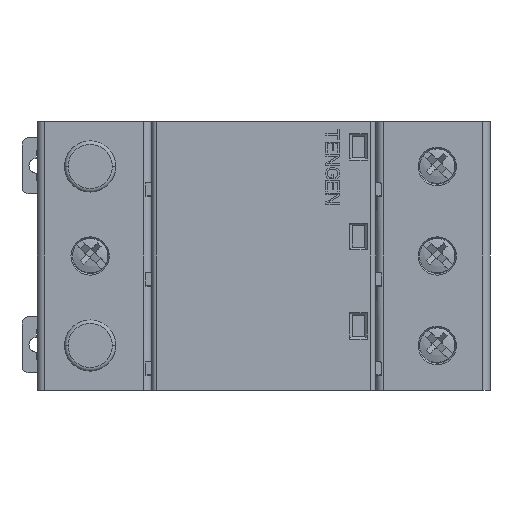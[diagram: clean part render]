
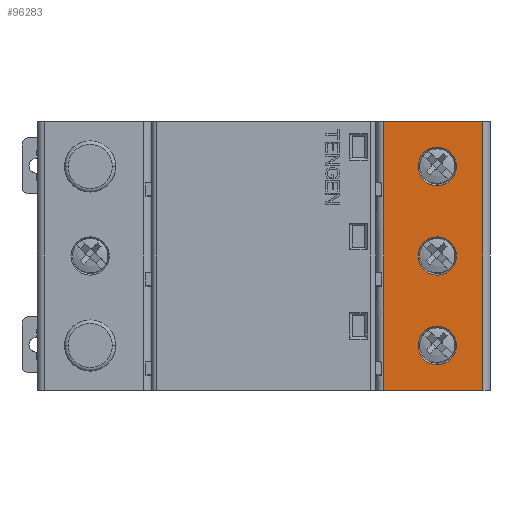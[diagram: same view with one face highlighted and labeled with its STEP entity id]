
A CAD part, front view. The second image highlights one B-rep face of the part: STEP entity #96283.
In plain terms, the highlighted planar face has unit normal (0, -1, 0).
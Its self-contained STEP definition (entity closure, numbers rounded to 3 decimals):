
#5832=DIRECTION('',(-1.,0.,0.));
#5833=VECTOR('',#5832,19.9);
#5834=CARTESIAN_POINT('',(89.5,0.,-54.));
#5835=LINE('',#5834,#5833);
#5836=DIRECTION('',(1.,0.,0.));
#5837=VECTOR('',#5836,19.9);
#5838=CARTESIAN_POINT('',(69.6,0.,0.));
#5839=LINE('',#5838,#5837);
#5840=CARTESIAN_POINT('',(80.4,0.,-45.));
#5841=DIRECTION('',(0.,-1.,0.));
#5842=DIRECTION('',(1.,0.,0.));
#5843=AXIS2_PLACEMENT_3D('',#5840,#5841,#5842);
#5845=CARTESIAN_POINT('',(80.4,0.,-45.));
#5846=DIRECTION('',(0.,-1.,0.));
#5847=DIRECTION('',(-1.,0.,0.));
#5848=AXIS2_PLACEMENT_3D('',#5845,#5846,#5847);
#5850=CARTESIAN_POINT('',(80.4,0.,-9.));
#5851=DIRECTION('',(0.,-1.,0.));
#5852=DIRECTION('',(1.,0.,0.));
#5853=AXIS2_PLACEMENT_3D('',#5850,#5851,#5852);
#5855=CARTESIAN_POINT('',(80.4,0.,-9.));
#5856=DIRECTION('',(0.,-1.,0.));
#5857=DIRECTION('',(-1.,0.,0.));
#5858=AXIS2_PLACEMENT_3D('',#5855,#5856,#5857);
#5860=CARTESIAN_POINT('',(80.4,0.,-27.));
#5861=DIRECTION('',(0.,-1.,0.));
#5862=DIRECTION('',(1.,0.,0.));
#5863=AXIS2_PLACEMENT_3D('',#5860,#5861,#5862);
#5865=CARTESIAN_POINT('',(80.4,0.,-27.));
#5866=DIRECTION('',(0.,-1.,0.));
#5867=DIRECTION('',(-1.,0.,0.));
#5868=AXIS2_PLACEMENT_3D('',#5865,#5866,#5867);
#5874=DIRECTION('',(0.,0.,1.));
#5875=VECTOR('',#5874,54.);
#5876=CARTESIAN_POINT('',(89.5,0.,-54.));
#5877=LINE('',#5876,#5875);
#43159=DIRECTION('',(0.,0.,-1.));
#43160=VECTOR('',#43159,54.);
#43161=CARTESIAN_POINT('',(69.6,0.,0.));
#43162=LINE('',#43161,#43160);
#68900=CARTESIAN_POINT('',(89.5,0.,0.));
#68901=VERTEX_POINT('',#68900);
#70006=CARTESIAN_POINT('',(84.25,0.,-9.));
#70008=VERTEX_POINT('',#70006);
#70013=CARTESIAN_POINT('',(76.55,0.,-9.));
#70014=VERTEX_POINT('',#70013);
#70682=CARTESIAN_POINT('',(69.6,0.,0.));
#70684=VERTEX_POINT('',#70682);
#75842=CARTESIAN_POINT('',(76.55,0.,-27.));
#75843=VERTEX_POINT('',#75842);
#75844=CARTESIAN_POINT('',(84.25,0.,-27.));
#75845=VERTEX_POINT('',#75844);
#77554=CARTESIAN_POINT('',(89.5,0.,-54.));
#77556=VERTEX_POINT('',#77554);
#78260=CARTESIAN_POINT('',(76.55,0.,-45.));
#78261=VERTEX_POINT('',#78260);
#78262=CARTESIAN_POINT('',(84.25,0.,-45.));
#78263=VERTEX_POINT('',#78262);
#78603=CARTESIAN_POINT('',(69.6,0.,-54.));
#78605=VERTEX_POINT('',#78603);
#96252=CARTESIAN_POINT('',(0.,0.,-18.));
#96253=DIRECTION('',(0.,-1.,0.));
#96254=DIRECTION('',(1.,0.,0.));
#96255=AXIS2_PLACEMENT_3D('',#96252,#96253,#96254);
#96256=PLANE('',#96255);
#96258=ORIENTED_EDGE('',*,*,#96257,.F.);
#96259=ORIENTED_EDGE('',*,*,#93063,.T.);
#96261=ORIENTED_EDGE('',*,*,#96260,.F.);
#96263=ORIENTED_EDGE('',*,*,#96262,.T.);
#96264=EDGE_LOOP('',(#96258,#96259,#96261,#96263));
#96265=FACE_OUTER_BOUND('',#96264,.F.);
#96267=ORIENTED_EDGE('',*,*,#96266,.T.);
#96268=ORIENTED_EDGE('',*,*,#96242,.T.);
#96269=EDGE_LOOP('',(#96267,#96268));
#96270=FACE_BOUND('',#96269,.F.);
#96272=ORIENTED_EDGE('',*,*,#96271,.T.);
#96274=ORIENTED_EDGE('',*,*,#96273,.T.);
#96275=EDGE_LOOP('',(#96272,#96274));
#96276=FACE_BOUND('',#96275,.F.);
#96278=ORIENTED_EDGE('',*,*,#96277,.T.);
#96280=ORIENTED_EDGE('',*,*,#96279,.T.);
#96281=EDGE_LOOP('',(#96278,#96280));
#96282=FACE_BOUND('',#96281,.F.);
#96283=ADVANCED_FACE('',(#96265,#96270,#96276,#96282),#96256,.T.);
#5844=CIRCLE('',#5843,3.85);
#5849=CIRCLE('',#5848,3.85);
#5854=CIRCLE('',#5853,3.85);
#5859=CIRCLE('',#5858,3.85);
#5864=CIRCLE('',#5863,3.85);
#5869=CIRCLE('',#5868,3.85);
#93063=EDGE_CURVE('',#77556,#78605,#5835,.T.);
#96242=EDGE_CURVE('',#78261,#78263,#5849,.T.);
#96257=EDGE_CURVE('',#77556,#68901,#5877,.T.);
#96260=EDGE_CURVE('',#70684,#78605,#43162,.T.);
#96262=EDGE_CURVE('',#70684,#68901,#5839,.T.);
#96266=EDGE_CURVE('',#78263,#78261,#5844,.T.);
#96271=EDGE_CURVE('',#70008,#70014,#5854,.T.);
#96273=EDGE_CURVE('',#70014,#70008,#5859,.T.);
#96277=EDGE_CURVE('',#75845,#75843,#5864,.T.);
#96279=EDGE_CURVE('',#75843,#75845,#5869,.T.);
